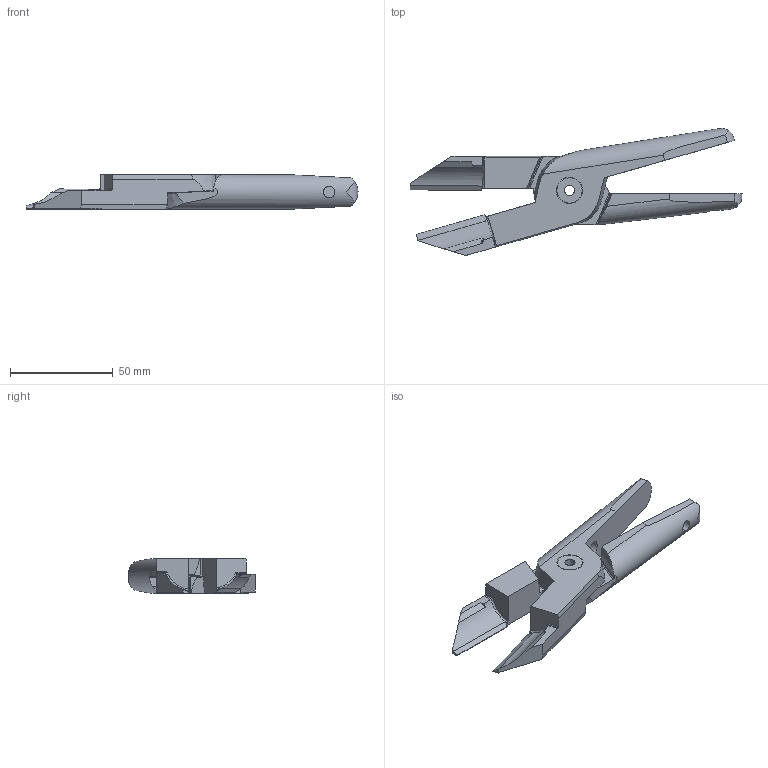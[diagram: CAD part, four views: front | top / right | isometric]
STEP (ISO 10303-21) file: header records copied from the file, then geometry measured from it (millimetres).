
FILE_DESCRIPTION((''),'2;1');
FILE_NAME('GPT-30-LI15.stp','2007-08-07T10:15:11',(''),(''),'Mechanical Desktop 2005','Mechanical Desktop 2005',', , ');
FILE_SCHEMA(('CONFIG_CONTROL_DESIGN'));
Length unit declared in the file: inch
Products named in the file (4): 30LI15; 30LI15O; 30LI15S; 30PRIVIT
Assembly tree (3 placements, depth 2):
  30LI15
    30LI15O
    30LI15S
    30PRIVIT
Bounding box: 161.28 x 61.77 x 16.99 mm (x, y, z)
Volume: 52017.1 mm3; surface area: 19930.5 mm2
Topology: 3 solids, 3 shells, 148 faces, 411 edges, 268 vertices
Faces by surface type: plane 72, cylinder 58, cone 16, bspline 2
Entity records: 5230 total; most frequent: CARTESIAN_POINT 1277, ORIENTED_EDGE 814, DIRECTION 798, EDGE_CURVE 407, AXIS2_PLACEMENT_3D 282, VERTEX_POINT 268, VECTOR 234, LINE 234
